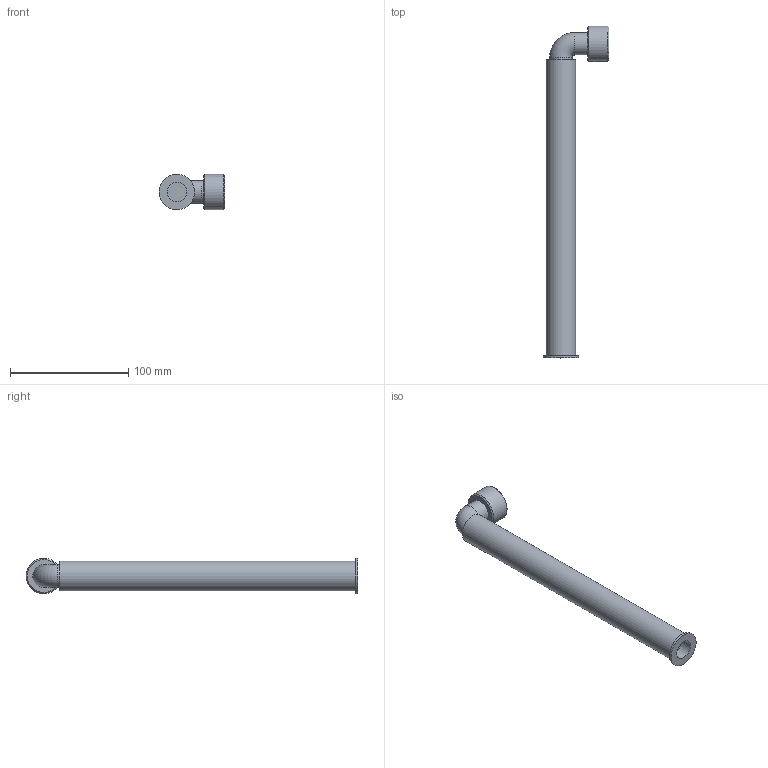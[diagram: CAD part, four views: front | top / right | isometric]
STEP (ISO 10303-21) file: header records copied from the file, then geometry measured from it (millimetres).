
FILE_DESCRIPTION( ( 'STEP AP203' ), '1' );
FILE_NAME( 'C:/Temp/Ganter_Step_05_03_2020/data/3_5/gn880_1/gn880_1_ans_abl/gn_880_1_c/Connector piece with drain hose GN 880.1-26-C-250-T.stp', '2020-03-12T13:42:34', ( 'License CC BY-ND 4.0' ), ( 'CADENAS' ), ' ', 'PARTsolutions', ' ' );
FILE_SCHEMA( ( 'CONFIG_CONTROL_DESIGN' ) );
Length unit declared in the file: millimetre
Products named in the file (5): Connector piece with drain hose GN 880.1-26-C-250-T; _Anschlussstueck mit Ablassschlauch GN 880.1-26-C-250-T_a; _Anschlussstueck mit Ablassschlauch GN 880.1-26-C-250-T_s; _Anschlussstueck mit Ablassschlauch GN 880.1-26-C-250-T_dk; _Anschlussstueck mit Ablassschlauch GN 880.1-26-C-250-T_dk2
Assembly tree (4 placements, depth 2):
  Connector piece with drain hose GN 880.1-26-C-250-T
    _Anschlussstueck mit Ablassschlauch GN 880.1-26-C-250-T_a
    _Anschlussstueck mit Ablassschlauch GN 880.1-26-C-250-T_s
    _Anschlussstueck mit Ablassschlauch GN 880.1-26-C-250-T_dk
    _Anschlussstueck mit Ablassschlauch GN 880.1-26-C-250-T_dk2
Bounding box: 55.5 x 280.5 x 30 mm (x, y, z)
Volume: 64696.4 mm3; surface area: 49007.1 mm2
Topology: 4 solids, 4 shells, 45 faces, 71 edges, 45 vertices
Faces by surface type: plane 19, cylinder 18, torus 5, cone 3
Full cylindrical faces by diameter (mm): 11.5 x1, 12.9 x1, 13 x2, 16.4 x1, 17 x2, 19 x6, 22 x1, 24.376 x1, 25 x1, 30 x2
Entity records: 1062 total; most frequent: DIRECTION 186, CARTESIAN_POINT 137, AXIS2_PLACEMENT_3D 93, EDGE_LOOP 86, ORIENTED_EDGE 86, FACE_OUTER_BOUND 68, ADVANCED_FACE 45, VERTEX_POINT 44
